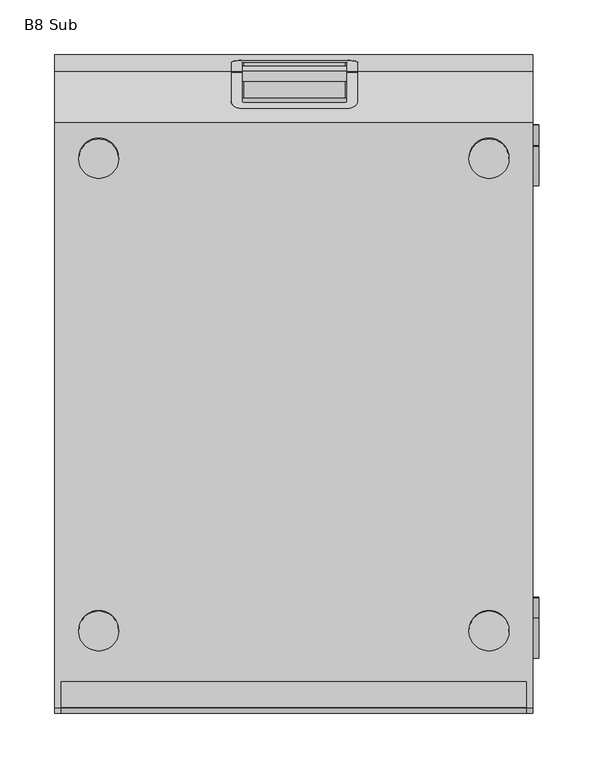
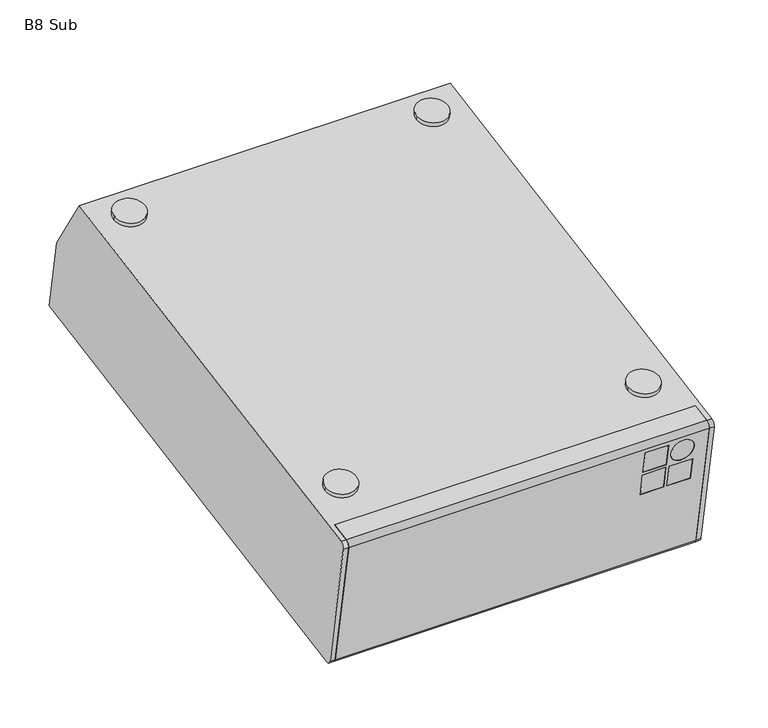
"""IFC4 building model written with IfcOpenShell, lengths in millimetres: proxy geometry, d&b B8 Subwoofer : B8 Sub."""

from ifc_helpers import new_model, si_unit, point, frame, frame_2d, origin, place, context, project, spatial, polyline, circle_curve, ellipse_curve, trimmed, segment, composite_curve, outline, extrude, source, transform, mapped, element, save
from ifc_brep_helpers import plane_surface, cylinder_surface, revolved_surface, advanced_brep


def b8_sub_062dfbe9(model_context):
    return source(origin(), model_context, "Body", "SolidModel", [
        advanced_brep(
        [(-212.0, -298.8349219, 24.7336196), (-212.0, -293.9679645, 31.6843552), (-212.0, -264.4477743, -135.7329628), (-212.0, -271.3985098, -130.8660053), (212.0, -298.8349219, 24.7336196), (212.0, -271.3985098, -130.8660053), (212.0, -264.4477743, -135.7329628), (212.0, -293.9679645, 31.6843552), (164.8089888, -292.5016412, -11.1842002), (164.8089888, -287.7214385, -38.2940765), (137.2808989, -287.7214385, -38.2940765), (137.2808989, -292.5016412, -11.1842002), (196.2696629, -292.5016412, -11.1842002), (196.2696629, -287.7214385, -38.2940765), (168.741573, -287.7214385, -38.2940765), (168.741573, -292.5016412, -11.1842002), (164.8089888, -297.9647299, 19.7985156), (164.8089888, -293.1845273, -7.3113607), (137.2808989, -293.1845273, -7.3113607), (137.2808989, -297.9647299, 19.7985156), (168.741573, -295.5746286, 6.2435774), (196.2696629, -295.5746286, 6.2435774), (164.8089888, -281.812592, -37.2521875), (164.8089888, -286.5927947, -10.1423111), (137.2808989, -286.5927947, -10.1423111), (137.2808989, -281.812592, -37.2521875), (196.2696629, -281.812592, -37.2521875), (196.2696629, -286.5927947, -10.1423111), (168.741573, -286.5927947, -10.1423111), (168.741573, -281.812592, -37.2521875), (164.8089888, -287.2756808, -6.2694717), (164.8089888, -292.0558834, 20.8404047), (137.2808989, -292.0558834, 20.8404047), (137.2808989, -287.2756808, -6.2694717), (196.2696629, -289.6657821, 7.2854665), (168.741573, -289.6657821, 7.2854665)],
        [
            (0, 1, circle_curve(frame((-212.0, -292.9260754, 25.7755087), z_axis=(-1.0, 0.0, 0.0), x_axis=(0.0, 0.9848077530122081, 0.17364817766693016)), 6.0)),
            (1, 2),
            (2, 3, circle_curve(frame((-212.0, -265.4896633, -129.8241163), z_axis=(-1.0, 0.0, 0.0), x_axis=(0.0, 0.9848077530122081, 0.17364817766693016)), 6.0)),
            (3, 0),
            (4, 5),
            (5, 6, circle_curve(frame((212.0, -265.4896633, -129.8241163), z_axis=(1.0, 0.0, 0.0), x_axis=(0.0, 0.9848077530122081, 0.17364817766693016)), 6.0)),
            (6, 7),
            (7, 4, circle_curve(frame((212.0, -292.9260754, 25.7755087), z_axis=(1.0, 0.0, 0.0), x_axis=(0.0, 0.9848077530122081, 0.17364817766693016)), 6.0)),
            (3, 5),
            (4, 0),
            (8, 9),
            (9, 10),
            (10, 11),
            (11, 8),
            (12, 13),
            (13, 14),
            (14, 15),
            (15, 12),
            (16, 17),
            (17, 18),
            (18, 19),
            (19, 16),
            (20, 21, circle_curve(frame((182.505618, -295.5746286, 6.2435774), z_axis=(0.0, 0.9848077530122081, 0.17364817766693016), x_axis=(-1.0, 0.0, 0.0)), 13.7640449)),
            (21, 20, circle_curve(frame((182.505618, -295.5746286, 6.2435774), z_axis=(0.0, 0.9848077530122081, 0.17364817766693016), x_axis=(-1.0, 0.0, 0.0)), 13.7640449)),
            (2, 6),
            (7, 1),
            (22, 23),
            (23, 24),
            (24, 25),
            (25, 22),
            (26, 27),
            (27, 28),
            (28, 29),
            (29, 26),
            (30, 31),
            (31, 32),
            (32, 33),
            (33, 30),
            (34, 35, circle_curve(frame((182.505618, -289.6657821, 7.2854665), z_axis=(0.0, -0.9848077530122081, -0.17364817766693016), x_axis=(-1.0, 0.0, 0.0)), 13.7640449)),
            (35, 34, circle_curve(frame((182.505618, -289.6657821, 7.2854665), z_axis=(0.0, -0.9848077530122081, -0.17364817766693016), x_axis=(-1.0, 0.0, 0.0)), 13.7640449)),
            (23, 8),
            (11, 24),
            (10, 25),
            (9, 22),
            (31, 16),
            (19, 32),
            (18, 33),
            (17, 30),
            (12, 27),
            (26, 13),
            (15, 28),
            (14, 29),
            (20, 35),
            (34, 21),
        ],
        [
            plane_surface(frame((-212.0, -287.0172289, 26.8173978), z_axis=(-1.0, 0.0, 0.0), x_axis=(0.0, 0.17364817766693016, -0.9848077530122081))),
            plane_surface(frame((212.0, -287.0172289, 26.8173978), z_axis=(1.0, 0.0, 0.0), x_axis=(0.0, -0.17364817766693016, 0.9848077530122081))),
            plane_surface(frame((-212.0, -271.3985098, -130.8660053), z_axis=(0.0, -0.9848077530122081, -0.17364817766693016), x_axis=(1.0, 0.0, 0.0))),
            cylinder_surface(frame((212.0, -265.4896633, -129.8241163), z_axis=(-1.0, 0.0, 0.0), x_axis=(0.0, 0.9848077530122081, 0.17364817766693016)), 6.0),
            cylinder_surface(frame((212.0, -292.9260754, 25.7755087), z_axis=(-1.0, 0.0, 0.0), x_axis=(0.0, 0.9848077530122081, 0.17364817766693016)), 6.0),
            plane_surface(frame((-212.0, -293.9679645, 31.6843552), z_axis=(0.0, 0.9848077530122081, 0.17364817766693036), x_axis=(1.0, 0.0, 0.0))),
            plane_surface(frame((164.8089888, -292.5016412, -11.1842002), z_axis=(0.0, 0.17364817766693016, -0.9848077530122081), x_axis=(0.0, 0.9848077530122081, 0.17364817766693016))),
            plane_surface(frame((137.2808989, -292.5016412, -11.1842002), z_axis=(1.0, 0.0, 0.0), x_axis=(0.0, 0.9848077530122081, 0.17364817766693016))),
            plane_surface(frame((137.2808989, -287.7214385, -38.2940765), z_axis=(0.0, -0.17364817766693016, 0.9848077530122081), x_axis=(0.0, 0.9848077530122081, 0.17364817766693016))),
            plane_surface(frame((164.8089888, -297.9647299, 19.7985156), z_axis=(0.0, 0.17364817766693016, -0.9848077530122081), x_axis=(0.0, 0.9848077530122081, 0.17364817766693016))),
            plane_surface(frame((137.2808989, -297.9647299, 19.7985156), z_axis=(1.0, 0.0, 0.0), x_axis=(0.0, 0.9848077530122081, 0.17364817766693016))),
            plane_surface(frame((137.2808989, -293.1845273, -7.3113607), z_axis=(0.0, -0.17364817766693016, 0.9848077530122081), x_axis=(0.0, 0.9848077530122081, 0.17364817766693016))),
            plane_surface(frame((164.8089888, -287.7214385, -38.2940765), z_axis=(-1.0, 0.0, 0.0), x_axis=(0.0, 0.9848077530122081, 0.17364817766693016))),
            plane_surface(frame((196.2696629, -287.7214385, -38.2940765), z_axis=(-1.0, 0.0, 0.0), x_axis=(0.0, 0.9848077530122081, 0.17364817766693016))),
            plane_surface(frame((196.2696629, -292.5016412, -11.1842002), z_axis=(0.0, 0.17364817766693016, -0.9848077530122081), x_axis=(0.0, 0.9848077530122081, 0.17364817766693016))),
            plane_surface(frame((168.741573, -292.5016412, -11.1842002), z_axis=(1.0, 0.0, 0.0), x_axis=(0.0, 0.9848077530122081, 0.17364817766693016))),
            plane_surface(frame((168.741573, -287.7214385, -38.2940765), z_axis=(0.0, -0.17364817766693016, 0.9848077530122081), x_axis=(0.0, 0.9848077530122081, 0.17364817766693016))),
            plane_surface(frame((164.8089888, -293.1845273, -7.3113607), z_axis=(-1.0, 0.0, 0.0), x_axis=(0.0, 0.9848077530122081, 0.17364817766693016))),
            revolved_surface(polyline([(168.7415731, -295.5746286, 6.2435774), (168.7415731, -289.6657820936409, 7.285466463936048)]), (182.505618, -295.5746286, 6.2435774), (0.0, -0.9848077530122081, -0.17364817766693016)),
        ],
        [
            (0, [[1, 2, 3, 4]]),
            (1, [[5, 6, 7, 8]]),
            (2, [[-4, 9, -5, 10], [11, 12, 13, 14], [15, 16, 17, 18], [19, 20, 21, 22], [23, 24]]),
            (3, [[-3, 25, -6, -9]]),
            (4, [[-1, -10, -8, 26]]),
            (5, [[-2, -26, -7, -25], [27, 28, 29, 30], [31, 32, 33, 34], [35, 36, 37, 38], [39, 40]]),
            (6, [[41, -14, 42, -28]]),
            (7, [[-42, -13, 43, -29]]),
            (8, [[44, -30, -43, -12]]),
            (9, [[45, -22, 46, -36]]),
            (10, [[-46, -21, 47, -37]]),
            (11, [[48, -38, -47, -20]]),
            (12, [[-41, -27, -44, -11]]),
            (13, [[49, -31, 50, -15]]),
            (14, [[-49, -18, 51, -32]]),
            (15, [[-51, -17, 52, -33]]),
            (16, [[-50, -34, -52, -16]]),
            (17, [[-45, -35, -48, -19]]),
            (18, [[53, -39, 54, -23]]),
            (18, [[-53, -24, -54, -40]]),
        ],
    ),
        extrude(outline(polyline([(0.0, -27.5280899), (0.0, 0.0), (6.0, 0.0), (6.0, -27.5280899), (0.0, -27.5280899)])), frame((137.2808989, -287.7214385, -38.2940765), z_axis=(0.0, -0.17364817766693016, 0.9848077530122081), x_axis=(0.0, 0.9848077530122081, 0.17364817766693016)), (0.0, 0.0, 1.0), 27.5280899),
        extrude(outline(polyline([(0.0, -27.5280899), (0.0, 0.0), (6.0, 0.0), (6.0, -27.5280899), (0.0, -27.5280899)])), frame((168.741573, -287.7214385, -38.2940765), z_axis=(0.0, -0.17364817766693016, 0.9848077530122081), x_axis=(0.0, 0.9848077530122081, 0.17364817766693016)), (0.0, 0.0, 1.0), 27.5280899),
        extrude(outline(polyline([(0.0, -27.5280899), (0.0, 0.0), (6.0, 0.0), (6.0, -27.5280899), (0.0, -27.5280899)])), frame((137.2808989, -293.1845273, -7.3113607), z_axis=(0.0, -0.17364817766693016, 0.9848077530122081), x_axis=(0.0, 0.9848077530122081, 0.17364817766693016)), (0.0, 0.0, 1.0), 27.5280899),
        extrude(outline(composite_curve([segment(trimmed(circle_curve(frame_2d((48.9606741, 17.6966292)), 13.7640449), [point((48.9606741, 31.4606741))], [point((48.9606741, 3.9325842))], False, "CARTESIAN"), True, "CONTINUOUS"), segment(trimmed(circle_curve(frame_2d((48.9606741, 17.6966292)), 13.7640449), [point((48.9606741, 3.9325842))], [point((48.9606741, 31.4606741))], False, "CARTESIAN"), True, "CONTINUOUS")], self_intersect=False)), frame((164.8089888, -287.0726968, -41.9732741), z_axis=(0.0, 0.9848077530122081, 0.17364817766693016), x_axis=(0.0, -0.17364817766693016, 0.9848077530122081)), (0.0, 0.0, 1.0), 6.0),
        extrude(outline(polyline([(0.0, -24.0), (0.0, 0.0), (424.0, 0.0), (424.0, -24.0), (0.0, -24.0)])), frame((-212.0, -240.8123882, -131.5654065), z_axis=(0.0, -0.17364817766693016, 0.9848077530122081), x_axis=(1.0, 0.0, 0.0)), (0.0, 0.0, 1.0), 170.0),
        extrude(outline(composite_curve([segment(trimmed(circle_curve(frame_2d((0.0, -52.5)), 52.5), [point((0.0, -105.0))], [point((0.0, 0.0))], False, "CARTESIAN"), True, "CONTINUOUS"), segment(trimmed(circle_curve(frame_2d((0.0, -52.5)), 52.5), [point((0.0, 0.0))], [point((0.0, -105.0))], False, "CARTESIAN"), True, "CONTINUOUS")], self_intersect=False)), frame((52.5, 121.104461, -67.7497012), z_axis=(0.0, -0.17364817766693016, 0.9848077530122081), x_axis=(0.0, -0.9848077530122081, -0.17364817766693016)), (0.0, 0.0, 1.0), 10.0),
        advanced_brep(
        [(-212.0, -270.3325784, 35.8519115), (212.0, -270.3325784, 35.8519115), (212.0, -293.9679645, 31.6843552), (218.0, -293.9679645, 31.6843552), (218.0, 239.0827448, 125.6755774), (-218.0, 239.0827448, 125.6755774), (-218.0, -293.9679645, 31.6843552), (-212.0, -293.9679645, 31.6843552), (218.0, 285.3771882, 51.5889812), (58.4448475, 285.3771882, 51.5889812), (58.4448475, 284.3471294, 53.2374197), (58.4448475, 258.461429, 94.6632), (46.4448475, 251.6029929, 105.638992), (-45.487267, 251.6029929, 105.638992), (-57.487267, 258.461429, 94.6632), (-57.487267, 284.3471294, 53.2374197), (-57.487267, 285.3771882, 51.5889812), (-218.0, 285.3771882, 51.5889812), (218.0, 300.831876, -36.0589088), (-218.0, 300.831876, -36.0589088), (-57.487267, 285.714726, 49.6747089), (-57.487267, 293.8398636, 3.5947639), (-45.487267, 295.9236417, -8.2229291), (46.4448475, 295.9236417, -8.2229291), (58.4448475, 293.8398636, 3.5947639), (58.4448475, 285.714726, 49.6747089), (212.0, -240.8123882, -131.5654065), (-212.0, -240.8123882, -131.5654065), (-212.0, -264.4477743, -135.7329628), (-218.0, -264.4477743, -135.7329628), (218.0, -264.4477743, -135.7329628), (212.0, -264.4477743, -135.7329628), (52.5, 121.104461, -67.7497012), (-52.5, 121.104461, -67.7497012), (212.0, -271.3985098, -130.8660053), (212.0, -298.8349219, 24.7336196), (218.0, -298.8349219, 24.7336196), (218.0, -271.3985098, -130.8660053), (-212.0, -298.8349219, 24.7336196), (-212.0, -271.3985098, -130.8660053), (-218.0, -271.3985098, -130.8660053), (-218.0, -298.8349219, 24.7336196), (-52.5, 119.3679793, -57.9016237), (52.5, 119.3679793, -57.9016237), (-45.487267, 242.5722836, 104.0466343), (46.4448475, 242.5722836, 104.0466343), (56.6650566, 243.5640463, 98.4220689), (-55.7074761, 243.5640463, 98.4220689), (46.4448475, 263.38025, -13.9612071), (-45.487267, 263.38025, -13.9612071), (-51.3483362, 263.1147919, -12.4557195), (52.3059167, 263.1147919, -12.4557195), (-58.4448475, 263.1147919, -12.4557195), (-58.4448475, 243.5640463, 98.4220689), (-58.4448475, 202.1608186, 72.5504608), (-58.4448475, 257.479098, -15.9772919), (58.4448475, 257.479098, -15.9772919), (58.4448475, 263.1147919, -12.4557195), (58.4448475, 202.1608186, 72.5504608), (58.4448475, 243.5640463, 98.4220689), (-57.487267, 261.2964719, -2.1435141), (-57.487267, 244.6560618, 92.2289413), (58.4448475, 261.2964719, -2.1435141), (58.4448475, 244.6560618, 92.2289413)],
        [
            (0, 1),
            (1, 2),
            (2, 3),
            (3, 4),
            (4, 5),
            (5, 6),
            (6, 7),
            (7, 0),
            (4, 8),
            (8, 9),
            (9, 10),
            (10, 11),
            (11, 12, ellipse_curve(frame((46.4448475, 258.461429, 94.6632), z_axis=(0.0, -0.848048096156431, -0.5299192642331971), x_axis=(0.0, 0.5299192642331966, -0.8480480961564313)), 12.9424169, 12.0)),
            (12, 13),
            (13, 14, ellipse_curve(frame((-45.487267, 258.461429, 94.6632), z_axis=(0.0, -0.848048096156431, -0.5299192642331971), x_axis=(0.0, 0.5299192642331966, -0.8480480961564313)), 12.9424169, 12.0)),
            (14, 15),
            (15, 16),
            (16, 17),
            (17, 5),
            (8, 18),
            (18, 19),
            (19, 17),
            (16, 20),
            (20, 21),
            (21, 22, circle_curve(frame((-45.487267, 293.8398636, 3.5947639), z_axis=(0.0, -0.9848077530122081, -0.17364817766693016), x_axis=(1.0, 0.0, 0.0)), 12.0)),
            (22, 23),
            (23, 24, circle_curve(frame((46.4448475, 293.8398636, 3.5947639), z_axis=(0.0, -0.9848077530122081, -0.17364817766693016), x_axis=(1.0, 0.0, 0.0)), 12.0)),
            (24, 25),
            (25, 9),
            (26, 27),
            (27, 28),
            (28, 29),
            (29, 19),
            (18, 30),
            (30, 31),
            (31, 26),
            (32, 33, circle_curve(frame((0.0, 121.104461, -67.7497012), z_axis=(0.0, -0.17364817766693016, 0.9848077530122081), x_axis=(1.0, 0.0, 0.0)), 52.5)),
            (33, 32, circle_curve(frame((0.0, 121.104461, -67.7497012), z_axis=(0.0, -0.17364817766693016, 0.9848077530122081), x_axis=(1.0, 0.0, 0.0)), 52.5)),
            (0, 27),
            (26, 1),
            (31, 34, circle_curve(frame((212.0, -265.4896633, -129.8241163), z_axis=(-1.0, 0.0, 0.0), x_axis=(0.0, 0.9848077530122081, 0.17364817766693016)), 6.0)),
            (34, 35),
            (35, 2, circle_curve(frame((212.0, -292.9260754, 25.7755087), z_axis=(-1.0, 0.0, 0.0), x_axis=(0.0, 0.9848077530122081, 0.17364817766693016)), 6.0)),
            (3, 36, circle_curve(frame((218.0, -292.9260754, 25.7755087), z_axis=(1.0, 0.0, 0.0), x_axis=(0.0, 0.9848077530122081, 0.17364817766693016)), 6.0)),
            (36, 37),
            (37, 30, circle_curve(frame((218.0, -265.4896633, -129.8241163), z_axis=(1.0, 0.0, 0.0), x_axis=(0.0, 0.9848077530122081, 0.17364817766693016)), 6.0)),
            (34, 37),
            (36, 35),
            (7, 38, circle_curve(frame((-212.0, -292.9260754, 25.7755087), z_axis=(1.0, 0.0, 0.0), x_axis=(0.0, 0.9848077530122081, 0.17364817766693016)), 6.0)),
            (38, 39),
            (39, 28, circle_curve(frame((-212.0, -265.4896633, -129.8241163), z_axis=(1.0, 0.0, 0.0), x_axis=(0.0, 0.9848077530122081, 0.17364817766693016)), 6.0)),
            (29, 40, circle_curve(frame((-218.0, -265.4896633, -129.8241163), z_axis=(-1.0, 0.0, 0.0), x_axis=(0.0, 0.9848077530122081, 0.17364817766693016)), 6.0)),
            (40, 41),
            (41, 6, circle_curve(frame((-218.0, -292.9260754, 25.7755087), z_axis=(-1.0, 0.0, 0.0), x_axis=(0.0, 0.9848077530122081, 0.17364817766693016)), 6.0)),
            (38, 41),
            (40, 39),
            (42, 43, circle_curve(frame((0.0, 119.3679793, -57.9016237), z_axis=(0.0, 0.17364817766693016, -0.9848077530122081), x_axis=(1.0, 0.0, 0.0)), 52.5)),
            (43, 42, circle_curve(frame((0.0, 119.3679793, -57.9016237), z_axis=(0.0, 0.17364817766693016, -0.9848077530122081), x_axis=(1.0, 0.0, 0.0)), 52.5)),
            (42, 33),
            (32, 43),
            (44, 45),
            (45, 46, circle_curve(frame((46.4448475, 244.6560618, 92.2289413), z_axis=(0.0, 0.9848077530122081, 0.17364817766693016), x_axis=(1.0, 0.0, 0.0)), 12.0)),
            (46, 47),
            (47, 44, circle_curve(frame((-45.487267, 244.6560618, 92.2289413), z_axis=(0.0, 0.9848077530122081, 0.17364817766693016), x_axis=(1.0, 0.0, 0.0)), 12.0)),
            (48, 49),
            (49, 50, circle_curve(frame((-45.487267, 261.2964719, -2.1435141), z_axis=(0.0, 0.9848077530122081, 0.17364817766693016), x_axis=(1.0, 0.0, 0.0)), 12.0)),
            (50, 51),
            (51, 48, circle_curve(frame((46.4448475, 261.2964719, -2.1435141), z_axis=(0.0, 0.9848077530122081, 0.17364817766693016), x_axis=(1.0, 0.0, 0.0)), 12.0)),
            (44, 13),
            (12, 45),
            (48, 23),
            (22, 49),
            (52, 53),
            (53, 54),
            (54, 55),
            (55, 52),
            (55, 56),
            (56, 57),
            (57, 51),
            (50, 52),
            (54, 58),
            (58, 56),
            (53, 47),
            (46, 59),
            (59, 58),
            (50, 60, circle_curve(frame((-45.487267, 261.2964719, -2.1435141), z_axis=(0.0, 0.9848077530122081, 0.17364817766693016), x_axis=(1.0, 0.0, 0.0)), 12.0)),
            (60, 61),
            (61, 47, circle_curve(frame((-45.487267, 244.6560618, 92.2289413), z_axis=(0.0, 0.9848077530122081, 0.17364817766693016), x_axis=(1.0, 0.0, 0.0)), 12.0)),
            (57, 62),
            (62, 51, circle_curve(frame((46.4448475, 261.2964719, -2.1435141), z_axis=(0.0, 0.9848077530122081, 0.17364817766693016), x_axis=(1.0, 0.0, 0.0)), 12.0)),
            (63, 59),
            (46, 63, circle_curve(frame((46.4448475, 244.6560618, 92.2289413), z_axis=(0.0, 0.9848077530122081, 0.17364817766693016), x_axis=(1.0, 0.0, 0.0)), 12.0)),
            (60, 21),
            (14, 61),
            (11, 63),
            (24, 62),
        ],
        [
            plane_surface(frame((-212.0, -270.3325784, 35.8519115), z_axis=(0.0, -0.17364817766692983, 0.9848077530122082), x_axis=(1.0, 0.0, 0.0))),
            plane_surface(frame((-212.0, 239.0827448, 125.6755774), z_axis=(0.0, 0.848048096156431, 0.5299192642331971), x_axis=(1.0, 0.0, 0.0))),
            plane_surface(frame((-212.0, 285.3771882, 51.5889812), z_axis=(0.0, 0.9848077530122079, 0.17364817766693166), x_axis=(1.0, 0.0, 0.0))),
            plane_surface(frame((-212.0, 300.831876, -36.0589088), z_axis=(0.0, 0.17364817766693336, -0.9848077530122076), x_axis=(1.0, 0.0, 0.0))),
            plane_surface(frame((-212.0, -240.8123882, -131.5654065), z_axis=(0.0, -0.9848077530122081, -0.17364817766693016), x_axis=(1.0, 0.0, 0.0))),
            plane_surface(frame((212.0, -259.5808168, -128.7822272), z_axis=(-1.0, 0.0, 0.0), x_axis=(0.0, 0.17364817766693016, -0.9848077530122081))),
            plane_surface(frame((218.0, -259.5808168, -128.7822272), z_axis=(1.0, 0.0, 0.0), x_axis=(0.0, -0.17364817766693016, 0.9848077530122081))),
            plane_surface(frame((212.0, -271.3985098, -130.8660053), z_axis=(0.0, -0.9848077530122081, -0.1736481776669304), x_axis=(1.0, 0.0, 0.0))),
            cylinder_surface(frame((218.0, -265.4896633, -129.8241163), z_axis=(-1.0, 0.0, 0.0), x_axis=(0.0, 0.9848077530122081, 0.17364817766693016)), 6.0),
            cylinder_surface(frame((218.0, -292.9260754, 25.7755087), z_axis=(-1.0, 0.0, 0.0), x_axis=(0.0, 0.9848077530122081, 0.17364817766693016)), 6.0),
            plane_surface(frame((-212.0, 275.2268744, -40.5737614), z_axis=(1.0, 0.0, 0.0), x_axis=(0.0, 0.9848077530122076, 0.17364817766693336))),
            plane_surface(frame((-218.0, 275.2268744, -40.5737614), z_axis=(-1.0, 0.0, 0.0), x_axis=(0.0, -0.9848077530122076, -0.17364817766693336))),
            plane_surface(frame((-212.0, -298.8349219, 24.7336196), z_axis=(0.0, -0.9848077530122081, -0.17364817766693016), x_axis=(-1.0, 0.0, 0.0))),
            cylinder_surface(frame((-218.0, -292.9260754, 25.7755087), z_axis=(1.0, 0.0, 0.0), x_axis=(0.0, 0.9848077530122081, 0.17364817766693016)), 6.0),
            cylinder_surface(frame((-218.0, -265.4896633, -129.8241163), z_axis=(1.0, 0.0, 0.0), x_axis=(0.0, 0.9848077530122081, 0.17364817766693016)), 6.0),
            plane_surface(frame((52.5, 119.3679793, -57.9016237), z_axis=(0.0, 0.17364817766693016, -0.9848077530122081), x_axis=(0.0, 0.9848077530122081, 0.17364817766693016))),
            revolved_surface(polyline([(52.5, 121.10446106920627, -67.74970118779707), (52.5, 119.3679793, -57.9016237)]), (0.0, 119.3679793, -57.9016237), (0.0, 0.17364817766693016, -0.9848077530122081)),
            plane_surface(frame((-33.487267, 261.2964719, -2.1435141), z_axis=(0.0, 0.9848077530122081, 0.17364817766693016), x_axis=(0.0, -0.17364817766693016, 0.9848077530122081))),
            plane_surface(frame((-45.487267, 275.1156753, 109.7849123), z_axis=(0.0, 0.17364817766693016, -0.9848077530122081), x_axis=(0.0, -0.9848077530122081, -0.17364817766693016))),
            plane_surface(frame((46.4448475, 295.9236417, -8.2229291), z_axis=(0.0, -0.17364817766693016, 0.9848077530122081), x_axis=(0.0, -0.9848077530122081, -0.17364817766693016))),
            plane_surface(frame((-58.4448475, 257.479098, -15.9772919), z_axis=(0.9999999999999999, 0.0, 0.0), x_axis=(0.0, -0.8480480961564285, -0.5299192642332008))),
            plane_surface(frame((-58.4448475, 263.1147919, -12.4557195), z_axis=(0.0, -0.5299192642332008, 0.8480480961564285), x_axis=(1.0, 0.0, 0.0))),
            plane_surface(frame((-58.4448475, 257.479098, -15.9772919), z_axis=(0.0, 0.8480480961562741, 0.5299192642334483), x_axis=(1.0, 0.0, 0.0))),
            plane_surface(frame((-58.4448475, 202.1608186, 72.5504608), z_axis=(0.0, 0.5299192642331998, -0.8480480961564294), x_axis=(1.0, 0.0, 0.0))),
            plane_surface(frame((-58.4448475, 243.5640463, 98.4220689), z_axis=(0.0, -0.9848077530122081, -0.17364817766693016), x_axis=(1.0, 0.0, 0.0))),
            plane_surface(frame((-57.487267, 293.8398636, 3.5947639), z_axis=(1.0, 0.0, 0.0), x_axis=(0.0, -0.9848077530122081, -0.17364817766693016))),
            revolved_surface(polyline([(-33.487267, 263.23608690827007, 95.50510102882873), (-33.487267, 244.6560617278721, 92.22894128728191)]), (-45.487267, 244.6560618, 92.2289413), (0.0, 0.9848077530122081, 0.17364817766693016)),
            revolved_surface(polyline([(58.4448475, 263.23608690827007, 95.50510102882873), (58.4448475, 244.6560617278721, 92.22894128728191)]), (46.4448475, 244.6560618, 92.2289413), (0.0, 0.9848077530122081, 0.17364817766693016)),
            plane_surface(frame((58.4448475, 277.1994535, 97.9672193), z_axis=(-1.0, 0.0, 0.0), x_axis=(0.0, -0.9848077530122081, -0.17364817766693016))),
            revolved_surface(polyline([(-33.487267, 293.83986359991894, 3.594763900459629), (-33.487267, 261.29647185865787, -2.1435141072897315)]), (-45.487267, 261.2964719, -2.1435141), (0.0, 0.9848077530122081, 0.17364817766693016)),
            revolved_surface(polyline([(58.4448475, 293.83986359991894, 3.594763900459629), (58.4448475, 261.29647185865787, -2.1435141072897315)]), (46.4448475, 261.2964719, -2.1435141), (0.0, 0.9848077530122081, 0.17364817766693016)),
        ],
        [
            (0, [[1, 2, 3, 4, 5, 6, 7, 8]]),
            (1, [[9, 10, 11, 12, 13, 14, 15, 16, 17, 18, 19, -5]]),
            (2, [[20, 21, 22, -18, 23, 24, 25, 26, 27, 28, 29, -10]]),
            (3, [[30, 31, 32, 33, -21, 34, 35, 36], [37, 38]]),
            (4, [[-1, 39, -30, 40]]),
            (5, [[41, 42, 43, -2, -40, -36]]),
            (6, [[-34, -20, -9, -4, 44, 45, 46]]),
            (7, [[-42, 47, -45, 48]]),
            (8, [[-41, -35, -46, -47]]),
            (9, [[-43, -48, -44, -3]]),
            (10, [[49, 50, 51, -31, -39, -8]]),
            (11, [[52, 53, 54, -6, -19, -22, -33]]),
            (12, [[-50, 55, -53, 56]]),
            (13, [[-49, -7, -54, -55]]),
            (14, [[-51, -56, -52, -32]]),
            (15, [[57, 58]]),
            (16, [[-57, 59, -37, 60]]),
            (16, [[-58, -60, -38, -59]]),
            (17, [[61, 62, 63, 64]]),
            (17, [[65, 66, 67, 68]]),
            (18, [[-61, 69, -14, 70]]),
            (19, [[-65, 71, -26, 72]]),
            (20, [[73, 74, 75, 76]]),
            (21, [[-76, 77, 78, 79, -67, 80]]),
            (22, [[-75, 81, 82, -77]]),
            (23, [[-74, 83, -63, 84, 85, -81]]),
            (24, [[-73, -80, 86, 87, 88, -83]]),
            (24, [[89, 90, -79]]),
            (24, [[91, -84, 92]]),
            (25, [[93, -24, -23, -17, -16, 94, -87]]),
            (26, [[-69, -64, -88, -94, -15]]),
            (27, [[-70, -13, 95, -92, -62]]),
            (28, [[96, -89, -78, -82, -85, -91, -95, -12, -11, -29, -28]]),
            (29, [[-72, -25, -93, -86, -66]]),
            (30, [[-71, -68, -90, -96, -27]]),
        ],
    ),
        extrude(outline(composite_curve([segment(trimmed(circle_curve(frame_2d((218.8074259, -20.0592341)), 18.25), [point((200.8346844, -23.2283133))], [point((236.7801674, -16.8901548))], False, "CARTESIAN"), True, "CONTINUOUS"), segment(trimmed(circle_curve(frame_2d((218.8074259, -20.0592341)), 18.25), [point((236.7801674, -16.8901548))], [point((200.8346844, -23.2283133))], False, "CARTESIAN"), True, "CONTINUOUS")], self_intersect=False)), frame((218.0, 0.0, 0.0), z_axis=(1.0, 0.0, 0.0), x_axis=(0.0, 1.0, 0.0)), (0.0, 0.0, 1.0), 5.5),
        extrude(outline(composite_curve([segment(trimmed(circle_curve(frame_2d((199.7061264, 88.2696188)), 18.25), [point((181.7333849, 85.1005395))], [point((217.6788678, 91.438698))], False, "CARTESIAN"), True, "CONTINUOUS"), segment(trimmed(circle_curve(frame_2d((199.7061264, 88.2696188)), 18.25), [point((217.6788678, 91.438698))], [point((181.7333849, 85.1005395))], False, "CARTESIAN"), True, "CONTINUOUS")], self_intersect=False)), frame((218.0, 0.0, 0.0), z_axis=(1.0, 0.0, 0.0), x_axis=(0.0, 1.0, 0.0)), (0.0, 0.0, 1.0), 5.5),
        extrude(outline(composite_curve([segment(trimmed(circle_curve(frame_2d((-211.5535622, -95.9434877)), 18.25), [point((-229.5263037, -99.112567))], [point((-193.5808207, -92.7744085))], False, "CARTESIAN"), True, "CONTINUOUS"), segment(trimmed(circle_curve(frame_2d((-211.5535622, -95.9434877)), 18.25), [point((-193.5808207, -92.7744085))], [point((-229.5263037, -99.112567))], False, "CARTESIAN"), True, "CONTINUOUS")], self_intersect=False)), frame((218.0, 0.0, 0.0), z_axis=(1.0, 0.0, 0.0), x_axis=(0.0, 1.0, 0.0)), (0.0, 0.0, 1.0), 5.5),
        extrude(outline(composite_curve([segment(trimmed(circle_curve(frame_2d((-230.6548617, 12.3853651)), 18.25), [point((-248.6276032, 9.2162859))], [point((-212.6821202, 15.5544444))], False, "CARTESIAN"), True, "CONTINUOUS"), segment(trimmed(circle_curve(frame_2d((-230.6548617, 12.3853651)), 18.25), [point((-212.6821202, 15.5544444))], [point((-248.6276032, 9.2162859))], False, "CARTESIAN"), True, "CONTINUOUS")], self_intersect=False)), frame((218.0, 0.0, 0.0), z_axis=(1.0, 0.0, 0.0), x_axis=(0.0, 1.0, 0.0)), (0.0, 0.0, 1.0), 5.5),
        advanced_brep(
        [(58.4448475, 284.3471294, 53.2374197), (48.4448475, 284.3471294, 53.2374197), (48.4448475, 258.461429, 94.6632), (46.4448475, 257.3183563, 96.4924987), (-45.487267, 257.3183563, 96.4924987), (-47.487267, 258.461429, 94.6632), (-47.487267, 284.3471294, 53.2374197), (-57.487267, 284.3471294, 53.2374197), (-57.487267, 258.461429, 94.6632), (-45.487267, 251.6029929, 105.638992), (46.4448475, 251.6029929, 105.638992), (58.4448475, 258.461429, 94.6632), (48.4448475, 285.714726, 49.6747089), (58.4448475, 285.714726, 49.6747089), (58.4448475, 293.8398636, 3.5947639), (46.4448475, 295.9236417, -8.2229291), (-45.487267, 295.9236417, -8.2229291), (-57.487267, 293.8398636, 3.5947639), (-57.487267, 285.714726, 49.6747089), (-47.487267, 285.714726, 49.6747089), (-47.487267, 293.8398636, 3.5947639), (-45.487267, 294.1871599, 1.6251484), (46.4448475, 294.1871599, 1.6251484), (48.4448475, 293.8398636, 3.5947639), (-45.487267, 263.38025, -13.9612071), (46.4448475, 263.38025, -13.9612071), (58.4448475, 261.2964719, -2.1435141), (58.4448475, 244.6560618, 92.2289413), (46.4448475, 242.5722836, 104.0466343), (-45.487267, 242.5722836, 104.0466343), (-57.487267, 244.6560618, 92.2289413), (-57.487267, 261.2964719, -2.1435141), (-45.487267, 261.6437682, -4.1131296), (-47.487267, 261.2964719, -2.1435141), (-47.487267, 244.6560618, 92.2289413), (-45.487267, 244.3087654, 94.1985568), (46.4448475, 244.3087654, 94.1985568), (48.4448475, 244.6560618, 92.2289413), (48.4448475, 261.2964719, -2.1435141), (46.4448475, 261.6437682, -4.1131296)],
        [
            (0, 1),
            (1, 2),
            (2, 3, ellipse_curve(frame((46.4448475, 258.461429, 94.6632), z_axis=(0.0, -0.8480480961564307, -0.5299192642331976), x_axis=(0.0, -0.529919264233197, 0.848048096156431)), 2.1570695, 2.0)),
            (3, 4),
            (4, 5, ellipse_curve(frame((-45.487267, 258.461429, 94.6632), z_axis=(0.0, -0.8480480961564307, -0.5299192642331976), x_axis=(0.0, -0.529919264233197, 0.848048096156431)), 2.1570695, 2.0)),
            (5, 6),
            (6, 7),
            (7, 8),
            (8, 9, ellipse_curve(frame((-45.487267, 258.461429, 94.6632), z_axis=(0.0, 0.8480480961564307, 0.5299192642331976), x_axis=(0.0, 0.529919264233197, -0.848048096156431)), 12.9424169, 12.0)),
            (9, 10),
            (10, 11, ellipse_curve(frame((46.4448475, 258.461429, 94.6632), z_axis=(0.0, 0.8480480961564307, 0.5299192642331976), x_axis=(0.0, 0.529919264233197, -0.848048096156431)), 12.9424169, 12.0)),
            (11, 0),
            (12, 13),
            (13, 14),
            (14, 15, circle_curve(frame((46.4448475, 293.8398636, 3.5947639), z_axis=(0.0, 0.9848077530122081, 0.17364817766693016), x_axis=(1.0, 0.0, 0.0)), 12.0)),
            (15, 16),
            (16, 17, circle_curve(frame((-45.487267, 293.8398636, 3.5947639), z_axis=(0.0, 0.9848077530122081, 0.17364817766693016), x_axis=(1.0, 0.0, 0.0)), 12.0)),
            (17, 18),
            (18, 19),
            (19, 20),
            (20, 21, circle_curve(frame((-45.487267, 293.8398636, 3.5947639), z_axis=(0.0, -0.9848077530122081, -0.17364817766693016), x_axis=(1.0, 0.0, 0.0)), 2.0)),
            (21, 22),
            (22, 23, circle_curve(frame((46.4448475, 293.8398636, 3.5947639), z_axis=(0.0, -0.9848077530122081, -0.17364817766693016), x_axis=(1.0, 0.0, 0.0)), 2.0)),
            (23, 12),
            (24, 25),
            (25, 26, circle_curve(frame((46.4448475, 261.2964719, -2.1435141), z_axis=(0.0, -0.9848077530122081, -0.17364817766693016), x_axis=(1.0, 0.0, 0.0)), 12.0)),
            (26, 27),
            (27, 28, circle_curve(frame((46.4448475, 244.6560618, 92.2289413), z_axis=(0.0, -0.9848077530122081, -0.17364817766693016), x_axis=(1.0, 0.0, 0.0)), 12.0)),
            (28, 29),
            (29, 30, circle_curve(frame((-45.487267, 244.6560618, 92.2289413), z_axis=(0.0, -0.9848077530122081, -0.17364817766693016), x_axis=(1.0, 0.0, 0.0)), 12.0)),
            (30, 31),
            (31, 24, circle_curve(frame((-45.487267, 261.2964719, -2.1435141), z_axis=(0.0, -0.9848077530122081, -0.17364817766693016), x_axis=(1.0, 0.0, 0.0)), 12.0)),
            (32, 33, circle_curve(frame((-45.487267, 261.2964719, -2.1435141), z_axis=(0.0, 0.9848077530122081, 0.17364817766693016), x_axis=(1.0, 0.0, 0.0)), 2.0)),
            (33, 34),
            (34, 35, circle_curve(frame((-45.487267, 244.6560618, 92.2289413), z_axis=(0.0, 0.9848077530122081, 0.17364817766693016), x_axis=(1.0, 0.0, 0.0)), 2.0)),
            (35, 36),
            (36, 37, circle_curve(frame((46.4448475, 244.6560618, 92.2289413), z_axis=(0.0, 0.9848077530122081, 0.17364817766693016), x_axis=(1.0, 0.0, 0.0)), 2.0)),
            (37, 38),
            (38, 39, circle_curve(frame((46.4448475, 261.2964719, -2.1435141), z_axis=(0.0, 0.9848077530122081, 0.17364817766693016), x_axis=(1.0, 0.0, 0.0)), 2.0)),
            (39, 32),
            (31, 17),
            (16, 24),
            (30, 8),
            (7, 18, circle_curve(frame((-57.487267, 275.8666485, 47.9382271), z_axis=(-1.0, 0.0, 0.0), x_axis=(0.0, 0.9848077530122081, 0.17364817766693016)), 10.0)),
            (29, 9),
            (28, 10),
            (27, 11),
            (26, 14),
            (13, 0, circle_curve(frame((58.4448475, 275.8666485, 47.9382271), z_axis=(1.0, 0.0, 0.0), x_axis=(0.0, 0.9848077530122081, 0.17364817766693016)), 10.0)),
            (25, 15),
            (39, 22),
            (21, 32),
            (38, 23),
            (37, 2),
            (1, 12, circle_curve(frame((48.4448475, 275.8666485, 47.9382271), z_axis=(-1.0, 0.0, 0.0), x_axis=(0.0, 0.9848077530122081, 0.17364817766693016)), 10.0)),
            (36, 3),
            (35, 4),
            (34, 5),
            (33, 20),
            (19, 6, circle_curve(frame((-47.487267, 275.8666485, 47.9382271), z_axis=(1.0, 0.0, 0.0), x_axis=(0.0, 0.9848077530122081, 0.17364817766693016)), 10.0)),
        ],
        [
            plane_surface(frame((-57.487267, 284.3471294, 53.2374197), z_axis=(0.0, 0.8480480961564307, 0.5299192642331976), x_axis=(1.0, 0.0, 0.0))),
            plane_surface(frame((-57.487267, 297.6601235, -18.0710067), z_axis=(0.0, 0.9848077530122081, 0.17364817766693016), x_axis=(1.0, 0.0, 0.0))),
            plane_surface(frame((-33.487267, 261.2964719, -2.1435141), z_axis=(0.0, -0.9848077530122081, -0.17364817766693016), x_axis=(0.0, -0.17364817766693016, 0.9848077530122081))),
            cylinder_surface(frame((-45.487267, 261.2964719, -2.1435141), z_axis=(0.0, 0.9848077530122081, 0.17364817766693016), x_axis=(1.0, 0.0, 0.0)), 12.0),
            plane_surface(frame((-57.487267, 308.6119799, 6.1994866), z_axis=(-1.0, 0.0, 0.0), x_axis=(0.0, -0.9848077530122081, -0.17364817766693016))),
            cylinder_surface(frame((-45.487267, 244.6560618, 92.2289413), z_axis=(0.0, 0.9848077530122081, 0.17364817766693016), x_axis=(1.0, 0.0, 0.0)), 12.0),
            plane_surface(frame((-45.487267, 289.8877916, 112.389635), z_axis=(0.0, -0.17364817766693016, 0.9848077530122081), x_axis=(0.0, -0.9848077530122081, -0.17364817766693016))),
            cylinder_surface(frame((46.4448475, 244.6560618, 92.2289413), z_axis=(0.0, 0.9848077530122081, 0.17364817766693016), x_axis=(1.0, 0.0, 0.0)), 12.0),
            plane_surface(frame((58.4448475, 291.9715698, 100.571942), z_axis=(1.0, 0.0, 0.0), x_axis=(0.0, -0.9848077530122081, -0.17364817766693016))),
            cylinder_surface(frame((46.4448475, 261.2964719, -2.1435141), z_axis=(0.0, 0.9848077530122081, 0.17364817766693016), x_axis=(1.0, 0.0, 0.0)), 12.0),
            plane_surface(frame((46.4448475, 310.695758, -5.6182065), z_axis=(0.0, 0.17364817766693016, -0.9848077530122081), x_axis=(0.0, -0.9848077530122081, -0.17364817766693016))),
            plane_surface(frame((-45.487267, 308.9592762, 4.2298711), z_axis=(0.0, -0.17364817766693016, 0.9848077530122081), x_axis=(0.0, -0.9848077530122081, -0.17364817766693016))),
            revolved_surface(polyline([(48.4448475, 261.29647184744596, -2.1435141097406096), (48.4448475, 293.8398636, 3.5947639)]), (46.4448475, 293.8398636, 3.5947639), (0.0, -0.9848077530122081, -0.17364817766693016)),
            plane_surface(frame((48.4448475, 308.6119799, 6.1994866), z_axis=(-1.0, 0.0, 0.0), x_axis=(0.0, -0.9848077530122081, -0.17364817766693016))),
            revolved_surface(polyline([(48.4448475, 244.6560617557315, 92.22894129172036), (48.4448475, 259.257205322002, 94.80351685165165)]), (46.4448475, 277.1994535, 97.9672193), (0.0, -0.9848077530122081, -0.17364817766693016)),
            plane_surface(frame((46.4448475, 291.6242734, 102.5415575), z_axis=(0.0, 0.17364817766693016, -0.9848077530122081), x_axis=(0.0, -0.9848077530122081, -0.17364817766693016))),
            revolved_surface(polyline([(-43.487267, 244.6560617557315, 92.22894129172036), (-43.487267, 259.257205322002, 94.80351685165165)]), (-45.487267, 277.1994535, 97.9672193), (0.0, -0.9848077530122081, -0.17364817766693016)),
            plane_surface(frame((-47.487267, 291.9715698, 100.571942), z_axis=(1.0, 0.0, 0.0), x_axis=(0.0, -0.9848077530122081, -0.17364817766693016))),
            revolved_surface(polyline([(-43.487267, 261.29647184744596, -2.1435141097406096), (-43.487267, 293.8398636, 3.5947639)]), (-45.487267, 293.8398636, 3.5947639), (0.0, -0.9848077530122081, -0.17364817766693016)),
            cylinder_surface(frame((58.4448475, 275.8666485, 47.9382271), z_axis=(1.0, 0.0, 0.0), x_axis=(0.0, 0.9848077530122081, 0.17364817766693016)), 10.0),
        ],
        [
            (0, [[1, 2, 3, 4, 5, 6, 7, 8, 9, 10, 11, 12]]),
            (1, [[13, 14, 15, 16, 17, 18, 19, 20, 21, 22, 23, 24]]),
            (2, [[25, 26, 27, 28, 29, 30, 31, 32], [33, 34, 35, 36, 37, 38, 39, 40]]),
            (3, [[-32, 41, -17, 42]]),
            (4, [[-31, 43, -8, 44, -18, -41]]),
            (5, [[-30, 45, -9, -43]]),
            (6, [[-29, 46, -10, -45]]),
            (7, [[-28, 47, -11, -46]]),
            (8, [[-27, 48, -14, 49, -12, -47]]),
            (9, [[-26, 50, -15, -48]]),
            (10, [[-25, -42, -16, -50]]),
            (11, [[-40, 51, -22, 52]]),
            (12, [[-39, 53, -23, -51]]),
            (13, [[-38, 54, -2, 55, -24, -53]]),
            (14, [[-37, 56, -3, -54]]),
            (15, [[-36, 57, -4, -56]]),
            (16, [[-35, 58, -5, -57]]),
            (17, [[-34, 59, -20, 60, -6, -58]]),
            (18, [[-33, -52, -21, -59]]),
            (19, [[-1, -49, -13, -55]]),
            (19, [[-7, -60, -19, -44]]),
        ],
    ),
        extrude(outline(composite_curve([segment(polyline([(549.4413694, -599.4971634), (526.6808728, -599.4971634)]), True, "CONTINUOUS"), segment(trimmed(circle_curve(frame_2d((1076.1222422, -551.5311062)), 551.5311061), [point((526.6808728, -599.4971634))], [point((526.6808728, -503.5650489))], False, "CARTESIAN"), True, "CONTINUOUS"), segment(polyline([(526.6808728, -503.5650489), (549.4413694, -503.5650489)]), True, "CONTINUOUS"), segment(trimmed(circle_curve(frame_2d((0.0, -551.5311062)), 551.5311061), [point((549.4413694, -503.5650489))], [point((549.4413694, -599.4971634))], False, "CARTESIAN"), True, "CONTINUOUS")], self_intersect=False)), frame((552.0098964, 372.1230843, -497.9591474), z_axis=(0.0, 0.9848077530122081, 0.17364817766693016), x_axis=(0.0, -0.17364817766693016, 0.9848077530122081)), (0.0, 0.0, 1.0), 10.0),
        extrude(outline(composite_curve([segment(trimmed(circle_curve(frame_2d((0.0, -18.25)), 18.25), [point((0.0, -36.5))], [point((0.0, 0.0))], False, "CARTESIAN"), True, "CONTINUOUS"), segment(trimmed(circle_curve(frame_2d((0.0, -18.25)), 18.25), [point((0.0, 0.0))], [point((0.0, -36.5))], False, "CARTESIAN"), True, "CONTINUOUS")], self_intersect=False)), frame((196.2271934, 207.2291593, 120.0589308), z_axis=(0.0, -0.17364817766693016, 0.9848077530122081), x_axis=(0.0, -0.9848077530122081, -0.17364817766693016)), (0.0, 0.0, 1.0), 5.5),
        extrude(outline(composite_curve([segment(trimmed(circle_curve(frame_2d((0.0, -374.2043868)), 18.25), [point((0.0, -392.4543868))], [point((0.0, -355.9543868))], False, "CARTESIAN"), True, "CONTINUOUS"), segment(trimmed(circle_curve(frame_2d((0.0, -374.2043868)), 18.25), [point((0.0, -355.9543868))], [point((0.0, -392.4543868))], False, "CARTESIAN"), True, "CONTINUOUS")], self_intersect=False)), frame((196.2271934, 207.2291593, 120.0589308), z_axis=(0.0, -0.17364817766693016, 0.9848077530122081), x_axis=(0.0, -0.9848077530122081, -0.17364817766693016)), (0.0, 0.0, 1.0), 5.5),
        extrude(outline(composite_curve([segment(trimmed(circle_curve(frame_2d((437.0452945, -18.25)), 18.25), [point((437.0452945, -36.5))], [point((437.0452945, 0.0))], False, "CARTESIAN"), True, "CONTINUOUS"), segment(trimmed(circle_curve(frame_2d((437.0452945, -18.25)), 18.25), [point((437.0452945, 0.0))], [point((437.0452945, -36.5))], False, "CARTESIAN"), True, "CONTINUOUS")], self_intersect=False)), frame((196.2271934, 207.2291593, 120.0589308), z_axis=(0.0, -0.17364817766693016, 0.9848077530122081), x_axis=(0.0, -0.9848077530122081, -0.17364817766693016)), (0.0, 0.0, 1.0), 5.5),
        extrude(outline(composite_curve([segment(trimmed(circle_curve(frame_2d((437.0452945, -374.2043868)), 18.25), [point((437.0452945, -392.4543868))], [point((437.0452945, -355.9543868))], False, "CARTESIAN"), True, "CONTINUOUS"), segment(trimmed(circle_curve(frame_2d((437.0452945, -374.2043868)), 18.25), [point((437.0452945, -355.9543868))], [point((437.0452945, -392.4543868))], False, "CARTESIAN"), True, "CONTINUOUS")], self_intersect=False)), frame((196.2271934, 207.2291593, 120.0589308), z_axis=(0.0, -0.17364817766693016, 0.9848077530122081), x_axis=(0.0, -0.9848077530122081, -0.17364817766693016)), (0.0, 0.0, 1.0), 5.5),
    ])


if __name__ == "__main__":
    model = new_model("IFC4")
    model_context = context("Model", 3, world=origin())
    ifc_project = project(units=[si_unit("LENGTHUNIT", "METRE", prefix="MILLI")], contexts=[model_context])
    site = spatial("IfcSite", under=ifc_project)
    building = spatial("IfcBuilding", under=site)
    placement = place(None, origin())
    b8_sub_shape = b8_sub_062dfbe9(model_context)
    element("IfcBuildingElementProxy", 1, Name="d&b B8 Subwoofer : B8 Sub", ObjectType="d&b B8 Subwoofer : B8 Sub", at=placement, inside=building, context=model_context, shape_type="MappedRepresentation", body=[
        mapped(b8_sub_shape, transform((0.0, 0.0, 0.0), x_axis=(1.0, 0.0, 0.0), y_axis=(0.0, 1.0, 0.0), z_axis=(0.0, 0.0, 1.0))),
    ])
    save(model, "model.ifc")
